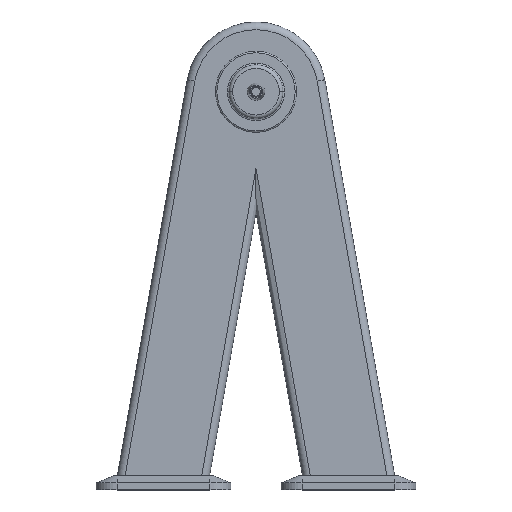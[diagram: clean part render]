
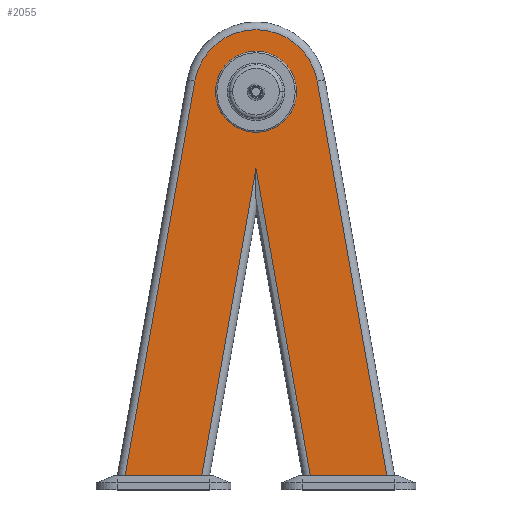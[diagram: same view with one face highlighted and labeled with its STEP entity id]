
A CAD part, top view. The second image highlights one B-rep face of the part: STEP entity #2055.
In plain terms, the highlighted planar face has unit normal (0, 0, 1).
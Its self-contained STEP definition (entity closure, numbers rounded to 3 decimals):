
#29 = VERTEX_POINT ( 'NONE', #313 ) ;
#34 = CARTESIAN_POINT ( 'NONE',  ( -10.833, 399.147, 63. ) ) ;
#44 = LINE ( 'NONE', #584, #1242 ) ;
#130 = VECTOR ( 'NONE', #2702, 1000. ) ;
#133 = DIRECTION ( 'NONE',  ( 0., 0., 1. ) ) ;
#251 = AXIS2_PLACEMENT_3D ( 'NONE', #1860, #1036, #2498 ) ;
#313 = CARTESIAN_POINT ( 'NONE',  ( -58., 570., 63. ) ) ;
#369 = CARTESIAN_POINT ( 'NONE',  ( 0., 20., 63. ) ) ;
#389 = CARTESIAN_POINT ( 'NONE',  ( 58., 570., 63. ) ) ;
#434 = DIRECTION ( 'NONE',  ( -0.174, -0.985, 0. ) ) ;
#445 = VERTEX_POINT ( 'NONE', #670 ) ;
#464 = LINE ( 'NONE', #839, #530 ) ;
#530 = VECTOR ( 'NONE', #2313, 1000. ) ;
#584 = CARTESIAN_POINT ( 'NONE',  ( 0., 20., 63. ) ) ;
#669 = FACE_BOUND ( 'NONE', #2802, .T. ) ;
#670 = CARTESIAN_POINT ( 'NONE',  ( -87.648, 585.455, 63. ) ) ;
#739 = AXIS2_PLACEMENT_3D ( 'NONE', #1442, #133, #1661 ) ;
#754 = DIRECTION ( 'NONE',  ( -0.174, 0.985, 0. ) ) ;
#755 = AXIS2_PLACEMENT_3D ( 'NONE', #1203, #2659, #1398 ) ;
#812 = CARTESIAN_POINT ( 'NONE',  ( -187.353, 20., 63. ) ) ;
#839 = CARTESIAN_POINT ( 'NONE',  ( 83.799, -14.664, 63. ) ) ;
#861 = EDGE_LOOP ( 'NONE', ( #2657, #1067, #952, #2128, #980, #1612, #2734 ) ) ;
#952 = ORIENTED_EDGE ( 'NONE', *, *, #2187, .T. ) ;
#954 = AXIS2_PLACEMENT_3D ( 'NONE', #2381, #1142, #2595 ) ;
#980 = ORIENTED_EDGE ( 'NONE', *, *, #1915, .T. ) ;
#991 = CIRCLE ( 'NONE', #954, 89. ) ;
#1036 = DIRECTION ( 'NONE',  ( 0., 0., 1. ) ) ;
#1067 = ORIENTED_EDGE ( 'NONE', *, *, #2333, .T. ) ;
#1084 = LINE ( 'NONE', #1803, #2117 ) ;
#1142 = DIRECTION ( 'NONE',  ( 0., 0., 1. ) ) ;
#1203 = CARTESIAN_POINT ( 'NONE',  ( 0., 570., 63. ) ) ;
#1242 = VECTOR ( 'NONE', #2054, 1000. ) ;
#1299 = ORIENTED_EDGE ( 'NONE', *, *, #2618, .F. ) ;
#1319 = VERTEX_POINT ( 'NONE', #2016 ) ;
#1383 = LINE ( 'NONE', #1712, #2300 ) ;
#1398 = DIRECTION ( 'NONE',  ( 1., 0., 0. ) ) ;
#1442 = CARTESIAN_POINT ( 'NONE',  ( 0., 570., 63. ) ) ;
#1465 = CIRCLE ( 'NONE', #739, 58. ) ;
#1480 = ORIENTED_EDGE ( 'NONE', *, *, #1947, .F. ) ;
#1573 = CARTESIAN_POINT ( 'NONE',  ( 187.353, 20., 63. ) ) ;
#1576 = VERTEX_POINT ( 'NONE', #1687 ) ;
#1612 = ORIENTED_EDGE ( 'NONE', *, *, #1772, .T. ) ;
#1637 = EDGE_CURVE ( 'NONE', #445, #2543, #1383, .T. ) ;
#1661 = DIRECTION ( 'NONE',  ( 1., 0., 0. ) ) ;
#1687 = CARTESIAN_POINT ( 'NONE',  ( -77.687, 20., 63. ) ) ;
#1712 = CARTESIAN_POINT ( 'NONE',  ( -192.274, -7.91, 63. ) ) ;
#1772 = EDGE_CURVE ( 'NONE', #1319, #445, #991, .T. ) ;
#1803 = CARTESIAN_POINT ( 'NONE',  ( 87.648, 585.455, 63. ) ) ;
#1857 = FACE_OUTER_BOUND ( 'NONE', #861, .T. ) ;
#1860 = CARTESIAN_POINT ( 'NONE',  ( 0., 570., 63. ) ) ;
#1915 = EDGE_CURVE ( 'NONE', #2327, #1319, #1084, .T. ) ;
#1947 = EDGE_CURVE ( 'NONE', #2593, #29, #2049, .T. ) ;
#1988 = DIRECTION ( 'NONE',  ( 0.174, 0.985, 0. ) ) ;
#2016 = CARTESIAN_POINT ( 'NONE',  ( 87.648, 585.455, 63. ) ) ;
#2049 = CIRCLE ( 'NONE', #755, 58. ) ;
#2050 = EDGE_CURVE ( 'NONE', #2327, #2162, #2345, .T. ) ;
#2054 = DIRECTION ( 'NONE',  ( -1., 0., 0. ) ) ;
#2055 = ADVANCED_FACE ( 'NONE', ( #669, #1857 ), #2278, .T. ) ;
#2103 = CARTESIAN_POINT ( 'NONE',  ( 77.687, 20., 63. ) ) ;
#2116 = CARTESIAN_POINT ( 'NONE',  ( 0., 460.583, 63. ) ) ;
#2117 = VECTOR ( 'NONE', #754, 1000. ) ;
#2128 = ORIENTED_EDGE ( 'NONE', *, *, #2050, .F. ) ;
#2162 = VERTEX_POINT ( 'NONE', #2103 ) ;
#2178 = VECTOR ( 'NONE', #1988, 1000. ) ;
#2187 = EDGE_CURVE ( 'NONE', #2768, #2162, #464, .T. ) ;
#2278 = PLANE ( 'NONE',  #251 ) ;
#2300 = VECTOR ( 'NONE', #434, 1000. ) ;
#2313 = DIRECTION ( 'NONE',  ( 0.174, -0.985, 0. ) ) ;
#2327 = VERTEX_POINT ( 'NONE', #1573 ) ;
#2333 = EDGE_CURVE ( 'NONE', #1576, #2768, #2752, .T. ) ;
#2345 = LINE ( 'NONE', #369, #130 ) ;
#2381 = CARTESIAN_POINT ( 'NONE',  ( 0., 570., 63. ) ) ;
#2486 = EDGE_CURVE ( 'NONE', #1576, #2543, #44, .T. ) ;
#2498 = DIRECTION ( 'NONE',  ( 1., 0., 0. ) ) ;
#2543 = VERTEX_POINT ( 'NONE', #812 ) ;
#2593 = VERTEX_POINT ( 'NONE', #389 ) ;
#2595 = DIRECTION ( 'NONE',  ( 1., 0., 0. ) ) ;
#2618 = EDGE_CURVE ( 'NONE', #29, #2593, #1465, .T. ) ;
#2657 = ORIENTED_EDGE ( 'NONE', *, *, #2486, .F. ) ;
#2659 = DIRECTION ( 'NONE',  ( 0., 0., 1. ) ) ;
#2702 = DIRECTION ( 'NONE',  ( -1., 0., 0. ) ) ;
#2734 = ORIENTED_EDGE ( 'NONE', *, *, #1637, .T. ) ;
#2752 = LINE ( 'NONE', #34, #2178 ) ;
#2768 = VERTEX_POINT ( 'NONE', #2116 ) ;
#2802 = EDGE_LOOP ( 'NONE', ( #1299, #1480 ) ) ;
